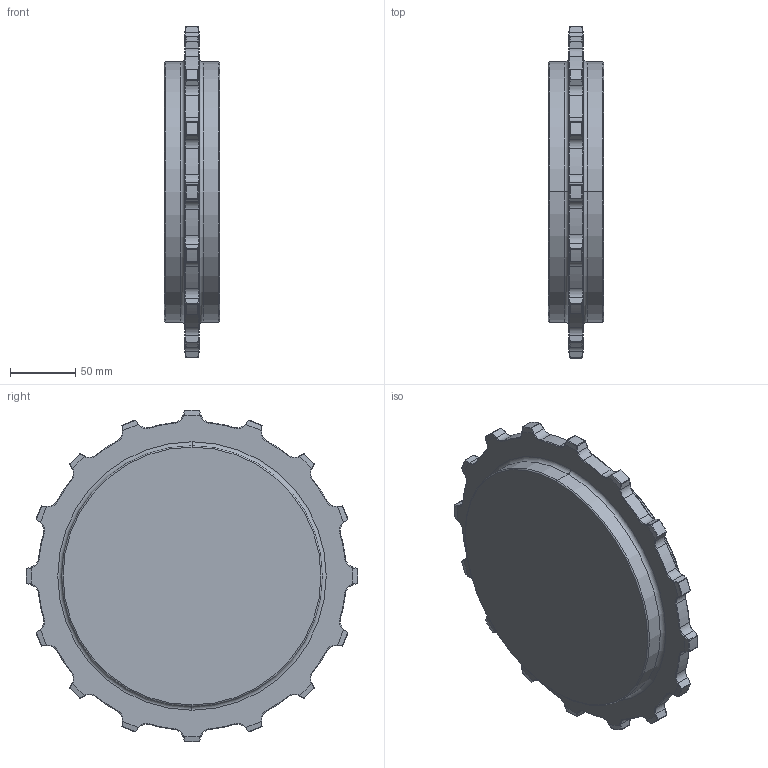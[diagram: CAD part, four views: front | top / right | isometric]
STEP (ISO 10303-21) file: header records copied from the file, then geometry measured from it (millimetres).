
FILE_DESCRIPTION((''),'2;1');
FILE_NAME('24Z16','2009-09-18T',('mth'),(''),'PRO/ENGINEER BY PARAMETRIC TECHNOLOGY CORPORATION, 2008490','PRO/ENGINEER BY PARAMETRIC TECHNOLOGY CORPORATION, 2008490','');
FILE_SCHEMA(('AUTOMOTIVE_DESIGN { 1 0 10303 214 1 1 1 1 }'));
Length unit declared in the file: millimetre
Products named in the file (1): 24Z16
Bounding box: 42.3 x 254.85 x 254.85 mm (x, y, z)
Volume: 1494519.7 mm3; surface area: 119622.6 mm2
Topology: 1 solids, 1 shells, 854 faces, 2159 edges, 1330 vertices
Faces by surface type: plane 394, cylinder 164, torus 136, bspline 64, sphere 64, cone 32
Entity records: 28276 total; most frequent: CARTESIAN_POINT 8043, ORIENTED_EDGE 4318, DIRECTION 4115, EDGE_CURVE 2159, AXIS2_PLACEMENT_3D 1422, VERTEX_POINT 1330, VECTOR 1271, LINE 1271
